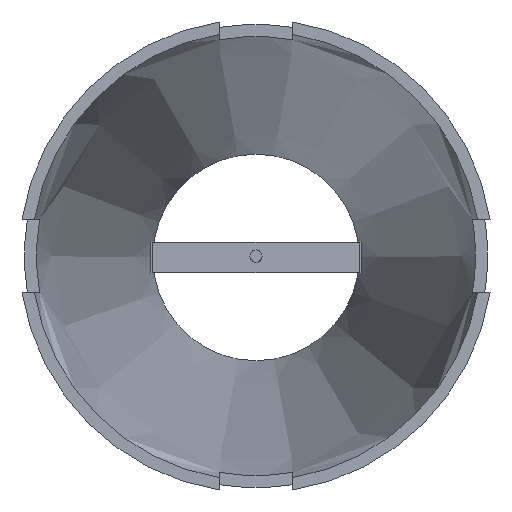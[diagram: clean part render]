
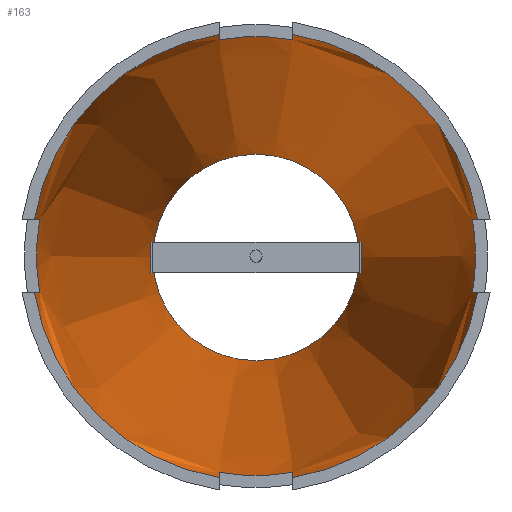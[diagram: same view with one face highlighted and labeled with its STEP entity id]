
A CAD part, top view. The second image highlights one B-rep face of the part: STEP entity #163.
In plain terms, the highlighted conical face has half-angle 8.211 degrees and reference radius 85 mm.
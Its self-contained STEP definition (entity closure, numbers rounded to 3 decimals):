
#163 = ADVANCED_FACE( '', ( #291, #292 ), #293, .F. );
#291 = FACE_OUTER_BOUND( '', #405, .T. );
#292 = FACE_BOUND( '', #406, .T. );
#293 = CONICAL_SURFACE( '', #407, 85., 0.143 );
#405 = EDGE_LOOP( '', ( #623, #624, #625, #626, #627, #628, #629, #630, #631, #632, #633, #634, #635, #636, #637, #638 ) );
#406 = EDGE_LOOP( '', ( #639 ) );
#407 = AXIS2_PLACEMENT_3D( '', #640, #641, #642 );
#623 = ORIENTED_EDGE( '', *, *, #785, .F. );
#624 = ORIENTED_EDGE( '', *, *, #776, .T. );
#625 = ORIENTED_EDGE( '', *, *, #760, .F. );
#626 = ORIENTED_EDGE( '', *, *, #752, .T. );
#627 = ORIENTED_EDGE( '', *, *, #800, .F. );
#628 = ORIENTED_EDGE( '', *, *, #808, .T. );
#629 = ORIENTED_EDGE( '', *, *, #747, .F. );
#630 = ORIENTED_EDGE( '', *, *, #809, .T. );
#631 = ORIENTED_EDGE( '', *, *, #810, .F. );
#632 = ORIENTED_EDGE( '', *, *, #772, .T. );
#633 = ORIENTED_EDGE( '', *, *, #789, .F. );
#634 = ORIENTED_EDGE( '', *, *, #727, .T. );
#635 = ORIENTED_EDGE( '', *, *, #743, .F. );
#636 = ORIENTED_EDGE( '', *, *, #740, .T. );
#637 = ORIENTED_EDGE( '', *, *, #757, .F. );
#638 = ORIENTED_EDGE( '', *, *, #797, .T. );
#639 = ORIENTED_EDGE( '', *, *, #811, .F. );
#640 = CARTESIAN_POINT( '', ( 0., 0., 0. ) );
#641 = DIRECTION( '', ( 0., 0., 1. ) );
#642 = DIRECTION( '', ( 1., 0., 0. ) );
#727 = EDGE_CURVE( '', #837, #841, #843, .T. );
#740 = EDGE_CURVE( '', #865, #863, #866, .T. );
#743 = EDGE_CURVE( '', #865, #841, #869, .T. );
#747 = EDGE_CURVE( '', #873, #875, #876, .T. );
#752 = EDGE_CURVE( '', #884, #881, #885, .T. );
#757 = EDGE_CURVE( '', #891, #863, #893, .T. );
#760 = EDGE_CURVE( '', #884, #896, #897, .T. );
#772 = EDGE_CURVE( '', #916, #914, #917, .T. );
#776 = EDGE_CURVE( '', #922, #896, #923, .T. );
#785 = EDGE_CURVE( '', #922, #934, #935, .T. );
#789 = EDGE_CURVE( '', #837, #914, #940, .T. );
#797 = EDGE_CURVE( '', #891, #934, #949, .T. );
#800 = EDGE_CURVE( '', #951, #881, #954, .T. );
#808 = EDGE_CURVE( '', #951, #875, #963, .T. );
#809 = EDGE_CURVE( '', #873, #964, #965, .T. );
#810 = EDGE_CURVE( '', #916, #964, #966, .T. );
#811 = EDGE_CURVE( '', #967, #967, #968, .T. );
#837 = VERTEX_POINT( '', #1001 );
#841 = VERTEX_POINT( '', #1006 );
#843 = CIRCLE( '', #1009, 185. );
#863 = VERTEX_POINT( '', #1036 );
#865 = VERTEX_POINT( '', #1039 );
#866 = CIRCLE( '', #1040, 180.671 );
#869 = B_SPLINE_CURVE_WITH_KNOTS( '', 3, ( #1044, #1045, #1046, #1047 ), .UNSPECIFIED., .F., .F., ( 4, 4 ), ( 0.28, 0.31 ), .UNSPECIFIED. );
#873 = VERTEX_POINT( '', #1054 );
#875 = VERTEX_POINT( '', #1057 );
#876 = B_SPLINE_CURVE_WITH_KNOTS( '', 3, ( #1058, #1059, #1060, #1061 ), .UNSPECIFIED., .F., .F., ( 4, 4 ), ( 0.276, 0.306 ), .UNSPECIFIED. );
#881 = VERTEX_POINT( '', #1070 );
#884 = VERTEX_POINT( '', #1074 );
#885 = CIRCLE( '', #1075, 185. );
#891 = VERTEX_POINT( '', #1082 );
#893 = B_SPLINE_CURVE_WITH_KNOTS( '', 3, ( #1085, #1086, #1087, #1088 ), .UNSPECIFIED., .F., .F., ( 4, 4 ), ( 0.276, 0.306 ), .UNSPECIFIED. );
#896 = VERTEX_POINT( '', #1094 );
#897 = B_SPLINE_CURVE_WITH_KNOTS( '', 3, ( #1095, #1096, #1097, #1098 ), .UNSPECIFIED., .F., .F., ( 4, 4 ), ( 0.276, 0.306 ), .UNSPECIFIED. );
#914 = VERTEX_POINT( '', #1124 );
#916 = VERTEX_POINT( '', #1127 );
#917 = CIRCLE( '', #1128, 180.671 );
#922 = VERTEX_POINT( '', #1134 );
#923 = CIRCLE( '', #1135, 180.671 );
#934 = VERTEX_POINT( '', #1151 );
#935 = B_SPLINE_CURVE_WITH_KNOTS( '', 3, ( #1152, #1153, #1154, #1155 ), .UNSPECIFIED., .F., .F., ( 4, 4 ), ( 0.28, 0.31 ), .UNSPECIFIED. );
#940 = B_SPLINE_CURVE_WITH_KNOTS( '', 3, ( #1164, #1165, #1166, #1167 ), .UNSPECIFIED., .F., .F., ( 4, 4 ), ( 0.276, 0.306 ), .UNSPECIFIED. );
#949 = CIRCLE( '', #1180, 185. );
#951 = VERTEX_POINT( '', #1182 );
#954 = B_SPLINE_CURVE_WITH_KNOTS( '', 3, ( #1186, #1187, #1188, #1189 ), .UNSPECIFIED., .F., .F., ( 4, 4 ), ( 0.28, 0.31 ), .UNSPECIFIED. );
#963 = CIRCLE( '', #1204, 180.671 );
#964 = VERTEX_POINT( '', #1205 );
#965 = CIRCLE( '', #1206, 185. );
#966 = B_SPLINE_CURVE_WITH_KNOTS( '', 3, ( #1207, #1208, #1209, #1210 ), .UNSPECIFIED., .F., .F., ( 4, 4 ), ( 0.28, 0.31 ), .UNSPECIFIED. );
#967 = VERTEX_POINT( '', #1211 );
#968 = CIRCLE( '', #1212, 85. );
#1001 = CARTESIAN_POINT( '', ( 30., -182.551, 693. ) );
#1006 = CARTESIAN_POINT( '', ( 182.551, -30., 693. ) );
#1009 = AXIS2_PLACEMENT_3D( '', #1243, #1244, #1245 );
#1036 = CARTESIAN_POINT( '', ( 178.163, 30., 663. ) );
#1039 = CARTESIAN_POINT( '', ( 178.163, -30., 663. ) );
#1040 = AXIS2_PLACEMENT_3D( '', #1257, #1258, #1259 );
#1044 = CARTESIAN_POINT( '', ( 178.163, -30., 663. ) );
#1045 = CARTESIAN_POINT( '', ( 179.626, -30., 673. ) );
#1046 = CARTESIAN_POINT( '', ( 181.089, -30., 683. ) );
#1047 = CARTESIAN_POINT( '', ( 182.551, -30., 693. ) );
#1054 = CARTESIAN_POINT( '', ( -182.551, -30., 693. ) );
#1057 = CARTESIAN_POINT( '', ( -178.163, -30., 663. ) );
#1058 = CARTESIAN_POINT( '', ( -182.551, -30., 693. ) );
#1059 = CARTESIAN_POINT( '', ( -181.089, -30., 683. ) );
#1060 = CARTESIAN_POINT( '', ( -179.626, -30., 673. ) );
#1061 = CARTESIAN_POINT( '', ( -178.163, -30., 663. ) );
#1070 = CARTESIAN_POINT( '', ( -182.551, 30., 693. ) );
#1074 = CARTESIAN_POINT( '', ( -30., 182.551, 693. ) );
#1075 = AXIS2_PLACEMENT_3D( '', #1264, #1265, #1266 );
#1082 = CARTESIAN_POINT( '', ( 182.551, 30., 693. ) );
#1085 = CARTESIAN_POINT( '', ( 182.551, 30., 693. ) );
#1086 = CARTESIAN_POINT( '', ( 181.089, 30., 683. ) );
#1087 = CARTESIAN_POINT( '', ( 179.626, 30., 673. ) );
#1088 = CARTESIAN_POINT( '', ( 178.163, 30., 663. ) );
#1094 = CARTESIAN_POINT( '', ( -30., 178.163, 663. ) );
#1095 = CARTESIAN_POINT( '', ( -30., 182.551, 693. ) );
#1096 = CARTESIAN_POINT( '', ( -30., 181.089, 683. ) );
#1097 = CARTESIAN_POINT( '', ( -30., 179.626, 673. ) );
#1098 = CARTESIAN_POINT( '', ( -30., 178.163, 663. ) );
#1124 = CARTESIAN_POINT( '', ( 30., -178.163, 663. ) );
#1127 = CARTESIAN_POINT( '', ( -30., -178.163, 663. ) );
#1128 = AXIS2_PLACEMENT_3D( '', #1282, #1283, #1284 );
#1134 = CARTESIAN_POINT( '', ( 30., 178.163, 663. ) );
#1135 = AXIS2_PLACEMENT_3D( '', #1289, #1290, #1291 );
#1151 = CARTESIAN_POINT( '', ( 30., 182.551, 693. ) );
#1152 = CARTESIAN_POINT( '', ( 30., 178.163, 663. ) );
#1153 = CARTESIAN_POINT( '', ( 30., 179.626, 673. ) );
#1154 = CARTESIAN_POINT( '', ( 30., 181.089, 683. ) );
#1155 = CARTESIAN_POINT( '', ( 30., 182.551, 693. ) );
#1164 = CARTESIAN_POINT( '', ( 30., -182.551, 693. ) );
#1165 = CARTESIAN_POINT( '', ( 30., -181.089, 683. ) );
#1166 = CARTESIAN_POINT( '', ( 30., -179.626, 673. ) );
#1167 = CARTESIAN_POINT( '', ( 30., -178.163, 663. ) );
#1180 = AXIS2_PLACEMENT_3D( '', #1305, #1306, #1307 );
#1182 = CARTESIAN_POINT( '', ( -178.163, 30., 663. ) );
#1186 = CARTESIAN_POINT( '', ( -178.163, 30., 663. ) );
#1187 = CARTESIAN_POINT( '', ( -179.626, 30., 673. ) );
#1188 = CARTESIAN_POINT( '', ( -181.089, 30., 683. ) );
#1189 = CARTESIAN_POINT( '', ( -182.551, 30., 693. ) );
#1204 = AXIS2_PLACEMENT_3D( '', #1312, #1313, #1314 );
#1205 = CARTESIAN_POINT( '', ( -30., -182.551, 693. ) );
#1206 = AXIS2_PLACEMENT_3D( '', #1315, #1316, #1317 );
#1207 = CARTESIAN_POINT( '', ( -30., -178.163, 663. ) );
#1208 = CARTESIAN_POINT( '', ( -30., -179.626, 673. ) );
#1209 = CARTESIAN_POINT( '', ( -30., -181.089, 683. ) );
#1210 = CARTESIAN_POINT( '', ( -30., -182.551, 693. ) );
#1211 = CARTESIAN_POINT( '', ( 85., 0., 0. ) );
#1212 = AXIS2_PLACEMENT_3D( '', #1318, #1319, #1320 );
#1243 = CARTESIAN_POINT( '', ( 0., 0., 693. ) );
#1244 = DIRECTION( '', ( 0., 0., 1. ) );
#1245 = DIRECTION( '', ( 1., 0., 0. ) );
#1257 = CARTESIAN_POINT( '', ( 0., 0., 663. ) );
#1258 = DIRECTION( '', ( 0., 0., 1. ) );
#1259 = DIRECTION( '', ( 1., 0., 0. ) );
#1264 = CARTESIAN_POINT( '', ( 0., 0., 693. ) );
#1265 = DIRECTION( '', ( 0., 0., 1. ) );
#1266 = DIRECTION( '', ( 1., 0., 0. ) );
#1282 = CARTESIAN_POINT( '', ( 0., 0., 663. ) );
#1283 = DIRECTION( '', ( 0., 0., 1. ) );
#1284 = DIRECTION( '', ( 1., 0., 0. ) );
#1289 = CARTESIAN_POINT( '', ( 0., 0., 663. ) );
#1290 = DIRECTION( '', ( 0., 0., 1. ) );
#1291 = DIRECTION( '', ( 1., 0., 0. ) );
#1305 = CARTESIAN_POINT( '', ( 0., 0., 693. ) );
#1306 = DIRECTION( '', ( 0., 0., 1. ) );
#1307 = DIRECTION( '', ( 1., 0., 0. ) );
#1312 = CARTESIAN_POINT( '', ( 0., 0., 663. ) );
#1313 = DIRECTION( '', ( 0., 0., 1. ) );
#1314 = DIRECTION( '', ( 1., 0., 0. ) );
#1315 = CARTESIAN_POINT( '', ( 0., 0., 693. ) );
#1316 = DIRECTION( '', ( 0., 0., 1. ) );
#1317 = DIRECTION( '', ( 1., 0., 0. ) );
#1318 = CARTESIAN_POINT( '', ( 0., 0., 0. ) );
#1319 = DIRECTION( '', ( 0., 0., 1. ) );
#1320 = DIRECTION( '', ( 1., 0., 0. ) );
